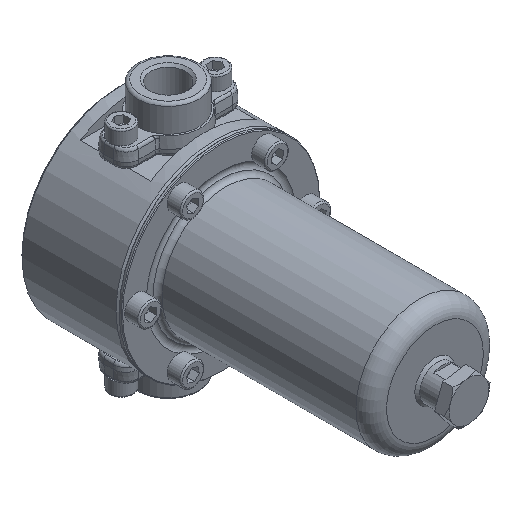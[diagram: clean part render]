
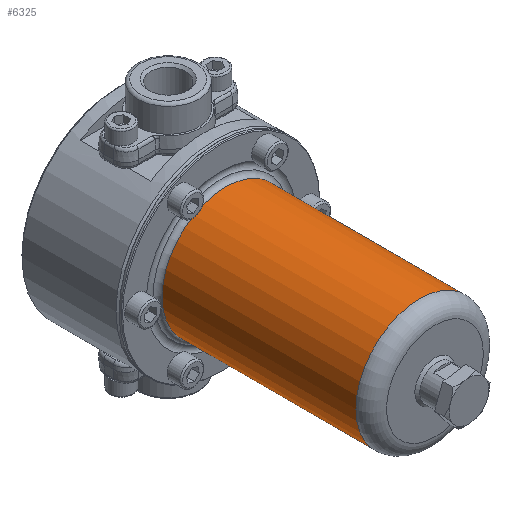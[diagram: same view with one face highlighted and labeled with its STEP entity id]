
A CAD part, isometric view. The second image highlights one B-rep face of the part: STEP entity #6325.
In plain terms, the highlighted cylindrical face has radius 27.1 mm (diameter 54.2 mm), a full revolution.
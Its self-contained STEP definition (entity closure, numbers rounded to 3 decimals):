
#588=LINE('',#10459,#928);
#928=VECTOR('',#8108,27.1);
#1233=CYLINDRICAL_SURFACE('',#7045,27.1);
#1464=FACE_OUTER_BOUND('',#1878,.T.);
#1878=EDGE_LOOP('',(#4594,#4595,#4596,#4597,#4598));
#2372=CIRCLE('',#7043,27.1);
#2374=CIRCLE('',#7046,27.1);
#2375=CIRCLE('',#7047,27.1);
#2819=VERTEX_POINT('',#10451);
#2820=VERTEX_POINT('',#10456);
#2821=VERTEX_POINT('',#10457);
#3482=EDGE_CURVE('',#2819,#2819,#2372,.T.);
#3484=EDGE_CURVE('',#2820,#2821,#2374,.T.);
#3485=EDGE_CURVE('',#2820,#2819,#588,.T.);
#3486=EDGE_CURVE('',#2821,#2820,#2375,.T.);
#4594=ORIENTED_EDGE('',*,*,#3484,.F.);
#4595=ORIENTED_EDGE('',*,*,#3485,.T.);
#4596=ORIENTED_EDGE('',*,*,#3482,.F.);
#4597=ORIENTED_EDGE('',*,*,#3485,.F.);
#4598=ORIENTED_EDGE('',*,*,#3486,.F.);
#6325=ADVANCED_FACE('',(#1464),#1233,.T.);
#7043=AXIS2_PLACEMENT_3D('',#10453,#8100,#8101);
#7045=AXIS2_PLACEMENT_3D('',#10455,#8104,#8105);
#7046=AXIS2_PLACEMENT_3D('',#10458,#8106,#8107);
#7047=AXIS2_PLACEMENT_3D('',#10460,#8109,#8110);
#8100=DIRECTION('center_axis',(0.,1.,0.));
#8101=DIRECTION('ref_axis',(1.,0.,0.));
#8104=DIRECTION('center_axis',(0.,-1.,0.));
#8105=DIRECTION('ref_axis',(1.,0.,0.));
#8106=DIRECTION('center_axis',(0.,-1.,0.));
#8107=DIRECTION('ref_axis',(-1.,0.,0.));
#8108=DIRECTION('',(0.,1.,0.));
#8109=DIRECTION('center_axis',(0.,-1.,0.));
#8110=DIRECTION('ref_axis',(-1.,0.,0.));
#10451=CARTESIAN_POINT('',(-27.1,89.003,0.));
#10453=CARTESIAN_POINT('Origin',(0.,89.003,
0.));
#10455=CARTESIAN_POINT('Origin',(0.,45.5,
0.));
#10456=CARTESIAN_POINT('',(-27.1,6.5,0.));
#10457=CARTESIAN_POINT('',(0.,6.5,27.1));
#10458=CARTESIAN_POINT('Origin',(0.,6.5,
0.));
#10459=CARTESIAN_POINT('',(-27.1,45.5,0.));
#10460=CARTESIAN_POINT('Origin',(0.,6.5,
0.));
